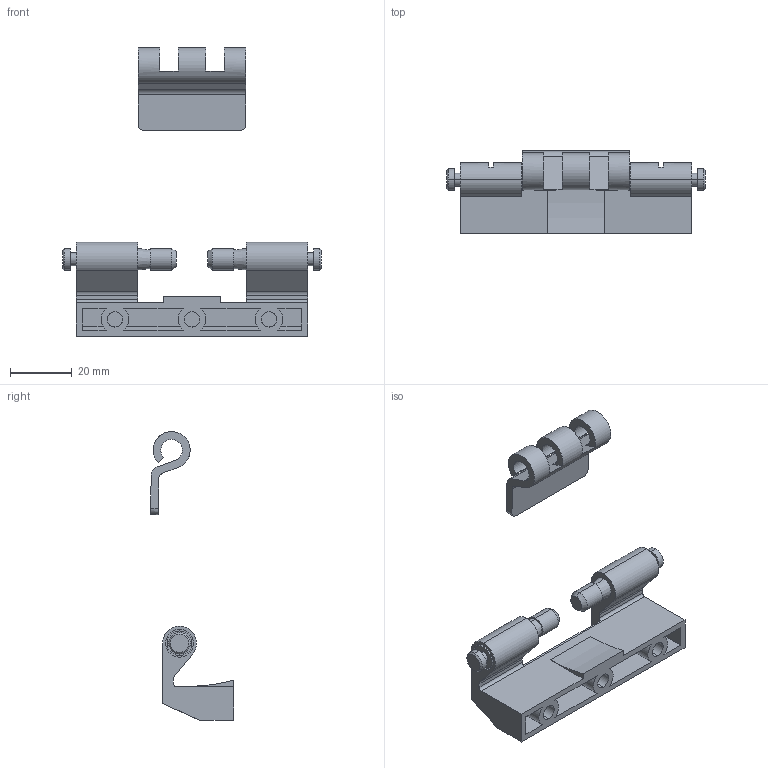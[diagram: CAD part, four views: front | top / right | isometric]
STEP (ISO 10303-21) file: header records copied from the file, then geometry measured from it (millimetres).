
FILE_DESCRIPTION (( 'STEP AP203' ), '1' );
FILE_NAME ('XG02-022-1.STEP', '2025-07-16T09:01:58', ( '微软用户' ), ( '微软中国' ), 'SwSTEP 2.0', 'SolidWorks 2024', '' );
FILE_SCHEMA (( 'CONFIG_CONTROL_DESIGN' ));
Length unit declared in the file: millimetre
Products named in the file (3): XG02-022-1; XG02-022-1附件
Assembly tree (2 placements, depth 2):
  XG02-022-1
    XG02-022-1
    XG02-022-1附件
Bounding box: 84 x 26.93 x 93.64 mm (x, y, z)
Volume: 20922.7 mm3; surface area: 14483.3 mm2
Topology: 2 solids, 2 shells, 143 faces, 352 edges, 232 vertices
Faces by surface type: plane 79, cylinder 52, cone 12
Entity records: 4557 total; most frequent: CARTESIAN_POINT 768, DIRECTION 766, ORIENTED_EDGE 704, EDGE_CURVE 352, AXIS2_PLACEMENT_3D 278, VERTEX_POINT 232, VECTOR 210, LINE 210
